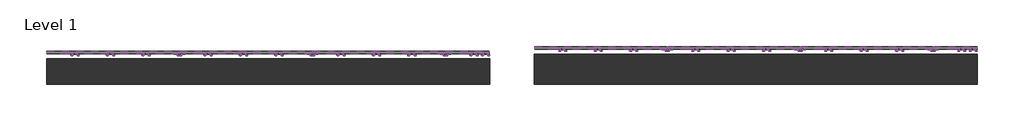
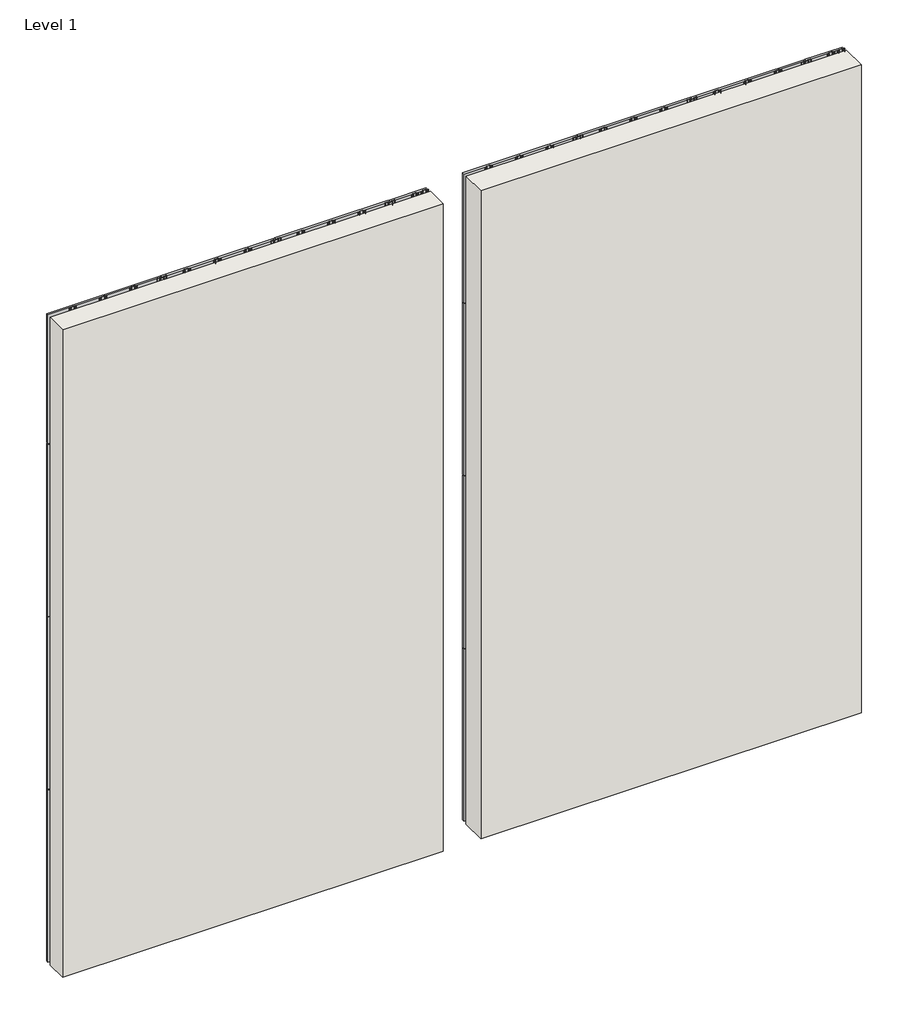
# One storey, incomplete: 32 plates, 24 members, 2 walls.
"""IFC4 building model written with IfcOpenShell, lengths in millimetres."""

from ifc_helpers import new_model, si_unit, origin, origin_with_axes, place, context, project, spatial, polyline, outline, extrude, transform, mapped, element, save
from components import rectangular_mullion_kws_revealrail_mullion_635518cf, rectangular_mullion_kws_revealrail_mullion_a2485246, plate_84a66804, plate_de720d52, plate_85d27ee4, plate_facd7c0a

model = new_model("IFC4")

# Units and contexts
model_context = context("Model", 3, world=origin())
ifc_project = project(units=[si_unit("LENGTHUNIT", "METRE", prefix="MILLI")], contexts=[model_context])

# Site, building, storey
site = spatial("IfcSite", under=ifc_project)
building = spatial("IfcBuilding", under=site)
storey = spatial("IfcBuildingStorey", under=building, Name="Level 1", Elevation=0.0)

# Members
placement = place(None, origin())
rectangular_mullion_kws_revealrail_mullion_shape = rectangular_mullion_kws_revealrail_mullion_635518cf(model_context)
element("IfcMember", 1, ObjectType="Rectangular Mullion : KWS_RevealRail_Mullion", at=placement, inside=storey, context=model_context, shape_type="MappedRepresentation", body=[
    mapped(rectangular_mullion_kws_revealrail_mullion_shape, transform((2855.9764743, 7373.7586092, 0.0), x_axis=(1.0, 0.0, 0.0), y_axis=(0.0, -1.0, 0.0), z_axis=(0.0, 0.0, -1.0))),
])
element("IfcMember", 2, ObjectType="Rectangular Mullion : KWS_RevealRail_Mullion", at=placement, inside=storey, context=model_context, shape_type="MappedRepresentation", body=[
    mapped(rectangular_mullion_kws_revealrail_mullion_shape, transform((4379.9764743, 7373.7586092, 0.0), x_axis=(1.0, 0.0, 0.0), y_axis=(0.0, -1.0, 0.0), z_axis=(0.0, 0.0, -1.0))),
])
element("IfcMember", 3, ObjectType="Rectangular Mullion : KWS_RevealRail_Mullion", at=placement, inside=storey, context=model_context, shape_type="MappedRepresentation", body=[
    mapped(rectangular_mullion_kws_revealrail_mullion_shape, transform((5903.9764743, 7373.7586092, 0.0), x_axis=(1.0, 0.0, 0.0), y_axis=(0.0, -1.0, 0.0), z_axis=(0.0, 0.0, -1.0))),
])
element("IfcMember", 4, ObjectType="Rectangular Mullion : KWS_RevealRail_Mullion", at=placement, inside=storey, context=model_context, shape_type="MappedRepresentation", body=[
    mapped(rectangular_mullion_kws_revealrail_mullion_shape, transform((8443.9764743, 7424.5586092, 0.0), x_axis=(1.0, 0.0, 0.0), y_axis=(0.0, -1.0, 0.0), z_axis=(0.0, 0.0, -1.0))),
])
element("IfcMember", 5, ObjectType="Rectangular Mullion : KWS_RevealRail_Mullion", at=placement, inside=storey, context=model_context, shape_type="MappedRepresentation", body=[
    mapped(rectangular_mullion_kws_revealrail_mullion_shape, transform((9967.9764743, 7424.5586092, 0.0), x_axis=(1.0, 0.0, 0.0), y_axis=(0.0, -1.0, 0.0), z_axis=(0.0, 0.0, -1.0))),
])
element("IfcMember", 6, ObjectType="Rectangular Mullion : KWS_RevealRail_Mullion", at=placement, inside=storey, context=model_context, shape_type="MappedRepresentation", body=[
    mapped(rectangular_mullion_kws_revealrail_mullion_shape, transform((11491.9764743, 7424.5586092, 0.0), x_axis=(1.0, 0.0, 0.0), y_axis=(0.0, -1.0, 0.0), z_axis=(0.0, 0.0, -1.0))),
])
element("IfcMember", 7, ObjectType="Rectangular Mullion : KWS_RevealRail_Mullion", at=placement, inside=storey, context=model_context, shape_type="MappedRepresentation", body=[
    mapped(rectangular_mullion_kws_revealrail_mullion_shape, transform((2855.9764743, 7373.7586092, 2438.4), x_axis=(1.0, 0.0, 0.0), y_axis=(0.0, -1.0, 0.0), z_axis=(0.0, 0.0, -1.0))),
])
element("IfcMember", 8, ObjectType="Rectangular Mullion : KWS_RevealRail_Mullion", at=placement, inside=storey, context=model_context, shape_type="MappedRepresentation", body=[
    mapped(rectangular_mullion_kws_revealrail_mullion_shape, transform((4379.9764743, 7373.7586092, 2438.4), x_axis=(1.0, 0.0, 0.0), y_axis=(0.0, -1.0, 0.0), z_axis=(0.0, 0.0, -1.0))),
])
element("IfcMember", 9, ObjectType="Rectangular Mullion : KWS_RevealRail_Mullion", at=placement, inside=storey, context=model_context, shape_type="MappedRepresentation", body=[
    mapped(rectangular_mullion_kws_revealrail_mullion_shape, transform((5903.9764743, 7373.7586092, 2438.4), x_axis=(1.0, 0.0, 0.0), y_axis=(0.0, -1.0, 0.0), z_axis=(0.0, 0.0, -1.0))),
])
element("IfcMember", 10, ObjectType="Rectangular Mullion : KWS_RevealRail_Mullion", at=placement, inside=storey, context=model_context, shape_type="MappedRepresentation", body=[
    mapped(rectangular_mullion_kws_revealrail_mullion_shape, transform((2855.9764743, 7373.7586092, 4876.8), x_axis=(1.0, 0.0, 0.0), y_axis=(0.0, -1.0, 0.0), z_axis=(0.0, 0.0, -1.0))),
])
element("IfcMember", 11, ObjectType="Rectangular Mullion : KWS_RevealRail_Mullion", at=placement, inside=storey, context=model_context, shape_type="MappedRepresentation", body=[
    mapped(rectangular_mullion_kws_revealrail_mullion_shape, transform((4379.9764743, 7373.7586092, 4876.8), x_axis=(1.0, 0.0, 0.0), y_axis=(0.0, -1.0, 0.0), z_axis=(0.0, 0.0, -1.0))),
])
element("IfcMember", 12, ObjectType="Rectangular Mullion : KWS_RevealRail_Mullion", at=placement, inside=storey, context=model_context, shape_type="MappedRepresentation", body=[
    mapped(rectangular_mullion_kws_revealrail_mullion_shape, transform((5903.9764743, 7373.7586092, 4876.8), x_axis=(1.0, 0.0, 0.0), y_axis=(0.0, -1.0, 0.0), z_axis=(0.0, 0.0, -1.0))),
])
element("IfcMember", 13, ObjectType="Rectangular Mullion : KWS_RevealRail_Mullion", at=placement, inside=storey, context=model_context, shape_type="MappedRepresentation", body=[
    mapped(rectangular_mullion_kws_revealrail_mullion_shape, transform((8443.9764743, 7424.5586092, 2438.4), x_axis=(1.0, 0.0, 0.0), y_axis=(0.0, -1.0, 0.0), z_axis=(0.0, 0.0, -1.0))),
])
element("IfcMember", 14, ObjectType="Rectangular Mullion : KWS_RevealRail_Mullion", at=placement, inside=storey, context=model_context, shape_type="MappedRepresentation", body=[
    mapped(rectangular_mullion_kws_revealrail_mullion_shape, transform((9967.9764743, 7424.5586092, 2438.4), x_axis=(1.0, 0.0, 0.0), y_axis=(0.0, -1.0, 0.0), z_axis=(0.0, 0.0, -1.0))),
])
element("IfcMember", 15, ObjectType="Rectangular Mullion : KWS_RevealRail_Mullion", at=placement, inside=storey, context=model_context, shape_type="MappedRepresentation", body=[
    mapped(rectangular_mullion_kws_revealrail_mullion_shape, transform((11491.9764743, 7424.5586092, 2438.4), x_axis=(1.0, 0.0, 0.0), y_axis=(0.0, -1.0, 0.0), z_axis=(0.0, 0.0, -1.0))),
])
element("IfcMember", 16, ObjectType="Rectangular Mullion : KWS_RevealRail_Mullion", at=placement, inside=storey, context=model_context, shape_type="MappedRepresentation", body=[
    mapped(rectangular_mullion_kws_revealrail_mullion_shape, transform((8443.9764743, 7424.5586092, 4876.8), x_axis=(1.0, 0.0, 0.0), y_axis=(0.0, -1.0, 0.0), z_axis=(0.0, 0.0, -1.0))),
])
element("IfcMember", 17, ObjectType="Rectangular Mullion : KWS_RevealRail_Mullion", at=placement, inside=storey, context=model_context, shape_type="MappedRepresentation", body=[
    mapped(rectangular_mullion_kws_revealrail_mullion_shape, transform((9967.9764743, 7424.5586092, 4876.8), x_axis=(1.0, 0.0, 0.0), y_axis=(0.0, -1.0, 0.0), z_axis=(0.0, 0.0, -1.0))),
])
element("IfcMember", 18, ObjectType="Rectangular Mullion : KWS_RevealRail_Mullion", at=placement, inside=storey, context=model_context, shape_type="MappedRepresentation", body=[
    mapped(rectangular_mullion_kws_revealrail_mullion_shape, transform((11491.9764743, 7424.5586092, 4876.8), x_axis=(1.0, 0.0, 0.0), y_axis=(0.0, -1.0, 0.0), z_axis=(0.0, 0.0, -1.0))),
])
rectangular_mullion_kws_revealrail_mullion_2_shape = rectangular_mullion_kws_revealrail_mullion_a2485246(model_context)
element("IfcMember", 19, ObjectType="Rectangular Mullion : KWS_RevealRail_Mullion", at=placement, inside=storey, context=model_context, shape_type="MappedRepresentation", body=[
    mapped(rectangular_mullion_kws_revealrail_mullion_2_shape, transform((2855.9764743, 7373.7586092, 7315.2), x_axis=(1.0, 0.0, 0.0), y_axis=(0.0, -1.0, 0.0), z_axis=(0.0, 0.0, -1.0))),
])
element("IfcMember", 20, ObjectType="Rectangular Mullion : KWS_RevealRail_Mullion", at=placement, inside=storey, context=model_context, shape_type="MappedRepresentation", body=[
    mapped(rectangular_mullion_kws_revealrail_mullion_2_shape, transform((4379.9764743, 7373.7586092, 7315.2), x_axis=(1.0, 0.0, 0.0), y_axis=(0.0, -1.0, 0.0), z_axis=(0.0, 0.0, -1.0))),
])
element("IfcMember", 21, ObjectType="Rectangular Mullion : KWS_RevealRail_Mullion", at=placement, inside=storey, context=model_context, shape_type="MappedRepresentation", body=[
    mapped(rectangular_mullion_kws_revealrail_mullion_2_shape, transform((5903.9764743, 7373.7586092, 7315.2), x_axis=(1.0, 0.0, 0.0), y_axis=(0.0, -1.0, 0.0), z_axis=(0.0, 0.0, -1.0))),
])
element("IfcMember", 22, ObjectType="Rectangular Mullion : KWS_RevealRail_Mullion", at=placement, inside=storey, context=model_context, shape_type="MappedRepresentation", body=[
    mapped(rectangular_mullion_kws_revealrail_mullion_2_shape, transform((8443.9764743, 7424.5586092, 7315.2), x_axis=(1.0, 0.0, 0.0), y_axis=(0.0, -1.0, 0.0), z_axis=(0.0, 0.0, -1.0))),
])
element("IfcMember", 23, ObjectType="Rectangular Mullion : KWS_RevealRail_Mullion", at=placement, inside=storey, context=model_context, shape_type="MappedRepresentation", body=[
    mapped(rectangular_mullion_kws_revealrail_mullion_2_shape, transform((9967.9764743, 7424.5586092, 7315.2), x_axis=(1.0, 0.0, 0.0), y_axis=(0.0, -1.0, 0.0), z_axis=(0.0, 0.0, -1.0))),
])
element("IfcMember", 24, ObjectType="Rectangular Mullion : KWS_RevealRail_Mullion", at=placement, inside=storey, context=model_context, shape_type="MappedRepresentation", body=[
    mapped(rectangular_mullion_kws_revealrail_mullion_2_shape, transform((11491.9764743, 7424.5586092, 7315.2), x_axis=(1.0, 0.0, 0.0), y_axis=(0.0, -1.0, 0.0), z_axis=(0.0, 0.0, -1.0))),
])

# Plates
plate_shape = plate_84a66804(model_context)
element("IfcPlate", 25, ObjectType="KWS_Generic-Panel_w_PanelRail-V : 2\" x 3/4\"", at=placement, inside=storey, context=model_context, shape_type="MappedRepresentation", body=[
    mapped(plate_shape, transform((2093.9764741, 7373.7586092, 0.0), x_axis=(1.0, 0.0, 0.0), y_axis=(0.0, 1.0, 0.0), z_axis=(0.0, 0.0, 1.0))),
])
element("IfcPlate", 26, ObjectType="KWS_Generic-Panel_w_PanelRail-V : 2\" x 3/4\"", at=placement, inside=storey, context=model_context, shape_type="MappedRepresentation", body=[
    mapped(plate_shape, transform((3617.9764743, 7373.7586092, 0.0), x_axis=(1.0, 0.0, 0.0), y_axis=(0.0, 1.0, 0.0), z_axis=(0.0, 0.0, 1.0))),
])
element("IfcPlate", 27, ObjectType="KWS_Generic-Panel_w_PanelRail-V : 2\" x 3/4\"", at=placement, inside=storey, context=model_context, shape_type="MappedRepresentation", body=[
    mapped(plate_shape, transform((5141.9764743, 7373.7586092, 0.0), x_axis=(1.0, 0.0, 0.0), y_axis=(0.0, 1.0, 0.0), z_axis=(0.0, 0.0, 1.0))),
])
element("IfcPlate", 28, ObjectType="KWS_Generic-Panel_w_PanelRail-V : 2\" x 3/4\"", at=placement, inside=storey, context=model_context, shape_type="MappedRepresentation", body=[
    mapped(plate_shape, transform((2093.9764741, 7373.7586092, 2438.4), x_axis=(1.0, 0.0, 0.0), y_axis=(0.0, 1.0, 0.0), z_axis=(0.0, 0.0, 1.0))),
])
element("IfcPlate", 29, ObjectType="KWS_Generic-Panel_w_PanelRail-V : 2\" x 3/4\"", at=placement, inside=storey, context=model_context, shape_type="MappedRepresentation", body=[
    mapped(plate_shape, transform((3617.9764743, 7373.7586092, 2438.4), x_axis=(1.0, 0.0, 0.0), y_axis=(0.0, 1.0, 0.0), z_axis=(0.0, 0.0, 1.0))),
])
element("IfcPlate", 30, ObjectType="KWS_Generic-Panel_w_PanelRail-V : 2\" x 3/4\"", at=placement, inside=storey, context=model_context, shape_type="MappedRepresentation", body=[
    mapped(plate_shape, transform((5141.9764743, 7373.7586092, 2438.4), x_axis=(1.0, 0.0, 0.0), y_axis=(0.0, 1.0, 0.0), z_axis=(0.0, 0.0, 1.0))),
])
element("IfcPlate", 31, ObjectType="KWS_Generic-Panel_w_PanelRail-V : 2\" x 3/4\"", at=placement, inside=storey, context=model_context, shape_type="MappedRepresentation", body=[
    mapped(plate_shape, transform((2093.9764741, 7373.7586092, 4876.8), x_axis=(1.0, 0.0, 0.0), y_axis=(0.0, 1.0, 0.0), z_axis=(0.0, 0.0, 1.0))),
])
element("IfcPlate", 32, ObjectType="KWS_Generic-Panel_w_PanelRail-V : 2\" x 3/4\"", at=placement, inside=storey, context=model_context, shape_type="MappedRepresentation", body=[
    mapped(plate_shape, transform((3617.9764743, 7373.7586092, 4876.8), x_axis=(1.0, 0.0, 0.0), y_axis=(0.0, 1.0, 0.0), z_axis=(0.0, 0.0, 1.0))),
])
element("IfcPlate", 33, ObjectType="KWS_Generic-Panel_w_PanelRail-V : 2\" x 3/4\"", at=placement, inside=storey, context=model_context, shape_type="MappedRepresentation", body=[
    mapped(plate_shape, transform((5141.9764743, 7373.7586092, 4876.8), x_axis=(1.0, 0.0, 0.0), y_axis=(0.0, 1.0, 0.0), z_axis=(0.0, 0.0, 1.0))),
])
element("IfcPlate", 34, ObjectType="KWS_Generic-Panel_w_PanelRail-V : 2\" x 3/4\"", at=placement, inside=storey, context=model_context, shape_type="MappedRepresentation", body=[
    mapped(plate_shape, transform((7681.9764741, 7424.5586092, 0.0), x_axis=(1.0, 0.0, 0.0), y_axis=(0.0, 1.0, 0.0), z_axis=(0.0, 0.0, 1.0))),
])
element("IfcPlate", 35, ObjectType="KWS_Generic-Panel_w_PanelRail-V : 2\" x 3/4\"", at=placement, inside=storey, context=model_context, shape_type="MappedRepresentation", body=[
    mapped(plate_shape, transform((9205.9764743, 7424.5586092, 0.0), x_axis=(1.0, 0.0, 0.0), y_axis=(0.0, 1.0, 0.0), z_axis=(0.0, 0.0, 1.0))),
])
element("IfcPlate", 36, ObjectType="KWS_Generic-Panel_w_PanelRail-V : 2\" x 3/4\"", at=placement, inside=storey, context=model_context, shape_type="MappedRepresentation", body=[
    mapped(plate_shape, transform((10729.9764743, 7424.5586092, 0.0), x_axis=(1.0, 0.0, 0.0), y_axis=(0.0, 1.0, 0.0), z_axis=(0.0, 0.0, 1.0))),
])
element("IfcPlate", 37, ObjectType="KWS_Generic-Panel_w_PanelRail-V : 2\" x 3/4\"", at=placement, inside=storey, context=model_context, shape_type="MappedRepresentation", body=[
    mapped(plate_shape, transform((7681.9764741, 7424.5586092, 2438.4), x_axis=(1.0, 0.0, 0.0), y_axis=(0.0, 1.0, 0.0), z_axis=(0.0, 0.0, 1.0))),
])
element("IfcPlate", 38, ObjectType="KWS_Generic-Panel_w_PanelRail-V : 2\" x 3/4\"", at=placement, inside=storey, context=model_context, shape_type="MappedRepresentation", body=[
    mapped(plate_shape, transform((9205.9764743, 7424.5586092, 2438.4), x_axis=(1.0, 0.0, 0.0), y_axis=(0.0, 1.0, 0.0), z_axis=(0.0, 0.0, 1.0))),
])
element("IfcPlate", 39, ObjectType="KWS_Generic-Panel_w_PanelRail-V : 2\" x 3/4\"", at=placement, inside=storey, context=model_context, shape_type="MappedRepresentation", body=[
    mapped(plate_shape, transform((10729.9764743, 7424.5586092, 2438.4), x_axis=(1.0, 0.0, 0.0), y_axis=(0.0, 1.0, 0.0), z_axis=(0.0, 0.0, 1.0))),
])
element("IfcPlate", 40, ObjectType="KWS_Generic-Panel_w_PanelRail-V : 2\" x 3/4\"", at=placement, inside=storey, context=model_context, shape_type="MappedRepresentation", body=[
    mapped(plate_shape, transform((7681.9764741, 7424.5586092, 4876.8), x_axis=(1.0, 0.0, 0.0), y_axis=(0.0, 1.0, 0.0), z_axis=(0.0, 0.0, 1.0))),
])
element("IfcPlate", 41, ObjectType="KWS_Generic-Panel_w_PanelRail-V : 2\" x 3/4\"", at=placement, inside=storey, context=model_context, shape_type="MappedRepresentation", body=[
    mapped(plate_shape, transform((9205.9764743, 7424.5586092, 4876.8), x_axis=(1.0, 0.0, 0.0), y_axis=(0.0, 1.0, 0.0), z_axis=(0.0, 0.0, 1.0))),
])
element("IfcPlate", 42, ObjectType="KWS_Generic-Panel_w_PanelRail-V : 2\" x 3/4\"", at=placement, inside=storey, context=model_context, shape_type="MappedRepresentation", body=[
    mapped(plate_shape, transform((10729.9764743, 7424.5586092, 4876.8), x_axis=(1.0, 0.0, 0.0), y_axis=(0.0, 1.0, 0.0), z_axis=(0.0, 0.0, 1.0))),
])
plate_2_shape = plate_de720d52(model_context)
element("IfcPlate", 43, ObjectType="KWS_Generic-Panel_w_PanelRail-V : 2\" x 3/4\"", at=placement, inside=storey, context=model_context, shape_type="MappedRepresentation", body=[
    mapped(plate_2_shape, transform((6157.9764741, 7373.7586092, 0.0), x_axis=(1.0, 0.0, 0.0), y_axis=(0.0, 1.0, 0.0), z_axis=(0.0, 0.0, 1.0))),
])
element("IfcPlate", 44, ObjectType="KWS_Generic-Panel_w_PanelRail-V : 2\" x 3/4\"", at=placement, inside=storey, context=model_context, shape_type="MappedRepresentation", body=[
    mapped(plate_2_shape, transform((6157.9764741, 7373.7586092, 2438.4), x_axis=(1.0, 0.0, 0.0), y_axis=(0.0, 1.0, 0.0), z_axis=(0.0, 0.0, 1.0))),
])
element("IfcPlate", 45, ObjectType="KWS_Generic-Panel_w_PanelRail-V : 2\" x 3/4\"", at=placement, inside=storey, context=model_context, shape_type="MappedRepresentation", body=[
    mapped(plate_2_shape, transform((6157.9764741, 7373.7586092, 4876.8), x_axis=(1.0, 0.0, 0.0), y_axis=(0.0, 1.0, 0.0), z_axis=(0.0, 0.0, 1.0))),
])
element("IfcPlate", 46, ObjectType="KWS_Generic-Panel_w_PanelRail-V : 2\" x 3/4\"", at=placement, inside=storey, context=model_context, shape_type="MappedRepresentation", body=[
    mapped(plate_2_shape, transform((11745.9764741, 7424.5586092, 0.0), x_axis=(1.0, 0.0, 0.0), y_axis=(0.0, 1.0, 0.0), z_axis=(0.0, 0.0, 1.0))),
])
element("IfcPlate", 47, ObjectType="KWS_Generic-Panel_w_PanelRail-V : 2\" x 3/4\"", at=placement, inside=storey, context=model_context, shape_type="MappedRepresentation", body=[
    mapped(plate_2_shape, transform((11745.9764741, 7424.5586092, 2438.4), x_axis=(1.0, 0.0, 0.0), y_axis=(0.0, 1.0, 0.0), z_axis=(0.0, 0.0, 1.0))),
])
element("IfcPlate", 48, ObjectType="KWS_Generic-Panel_w_PanelRail-V : 2\" x 3/4\"", at=placement, inside=storey, context=model_context, shape_type="MappedRepresentation", body=[
    mapped(plate_2_shape, transform((11745.9764741, 7424.5586092, 4876.8), x_axis=(1.0, 0.0, 0.0), y_axis=(0.0, 1.0, 0.0), z_axis=(0.0, 0.0, 1.0))),
])
plate_3_shape = plate_85d27ee4(model_context)
element("IfcPlate", 49, ObjectType="KWS_Generic-Panel_w_PanelRail-V : 2\" x 3/4\"", at=placement, inside=storey, context=model_context, shape_type="MappedRepresentation", body=[
    mapped(plate_3_shape, transform((2093.9764741, 7373.7586092, 7315.2), x_axis=(1.0, 0.0, 0.0), y_axis=(0.0, 1.0, 0.0), z_axis=(0.0, 0.0, 1.0))),
])
element("IfcPlate", 50, ObjectType="KWS_Generic-Panel_w_PanelRail-V : 2\" x 3/4\"", at=placement, inside=storey, context=model_context, shape_type="MappedRepresentation", body=[
    mapped(plate_3_shape, transform((3617.9764743, 7373.7586092, 7315.2), x_axis=(1.0, 0.0, 0.0), y_axis=(0.0, 1.0, 0.0), z_axis=(0.0, 0.0, 1.0))),
])
element("IfcPlate", 51, ObjectType="KWS_Generic-Panel_w_PanelRail-V : 2\" x 3/4\"", at=placement, inside=storey, context=model_context, shape_type="MappedRepresentation", body=[
    mapped(plate_3_shape, transform((5141.9764743, 7373.7586092, 7315.2), x_axis=(1.0, 0.0, 0.0), y_axis=(0.0, 1.0, 0.0), z_axis=(0.0, 0.0, 1.0))),
])
element("IfcPlate", 52, ObjectType="KWS_Generic-Panel_w_PanelRail-V : 2\" x 3/4\"", at=placement, inside=storey, context=model_context, shape_type="MappedRepresentation", body=[
    mapped(plate_3_shape, transform((7681.9764741, 7424.5586092, 7315.2), x_axis=(1.0, 0.0, 0.0), y_axis=(0.0, 1.0, 0.0), z_axis=(0.0, 0.0, 1.0))),
])
element("IfcPlate", 53, ObjectType="KWS_Generic-Panel_w_PanelRail-V : 2\" x 3/4\"", at=placement, inside=storey, context=model_context, shape_type="MappedRepresentation", body=[
    mapped(plate_3_shape, transform((9205.9764743, 7424.5586092, 7315.2), x_axis=(1.0, 0.0, 0.0), y_axis=(0.0, 1.0, 0.0), z_axis=(0.0, 0.0, 1.0))),
])
element("IfcPlate", 54, ObjectType="KWS_Generic-Panel_w_PanelRail-V : 2\" x 3/4\"", at=placement, inside=storey, context=model_context, shape_type="MappedRepresentation", body=[
    mapped(plate_3_shape, transform((10729.9764743, 7424.5586092, 7315.2), x_axis=(1.0, 0.0, 0.0), y_axis=(0.0, 1.0, 0.0), z_axis=(0.0, 0.0, 1.0))),
])
plate_4_shape = plate_facd7c0a(model_context)
element("IfcPlate", 55, ObjectType="KWS_Generic-Panel_w_PanelRail-V : 2\" x 3/4\"", at=placement, inside=storey, context=model_context, shape_type="MappedRepresentation", body=[
    mapped(plate_4_shape, transform((6157.9764741, 7373.7586092, 7315.2), x_axis=(1.0, 0.0, 0.0), y_axis=(0.0, 1.0, 0.0), z_axis=(0.0, 0.0, 1.0))),
])
element("IfcPlate", 56, ObjectType="KWS_Generic-Panel_w_PanelRail-V : 2\" x 3/4\"", at=placement, inside=storey, context=model_context, shape_type="MappedRepresentation", body=[
    mapped(plate_4_shape, transform((11745.9764741, 7424.5586092, 7315.2), x_axis=(1.0, 0.0, 0.0), y_axis=(0.0, 1.0, 0.0), z_axis=(0.0, 0.0, 1.0))),
])

# Walls
element("IfcWall", 57, ObjectType="Exterior - Backup Wall System - Concrete Block", at=placement, inside=storey, context=model_context, shape_type="SweptSolid", body=[
    extrude(outline(polyline([(6411.976474, 7046.7336092), (1331.976474, 7046.7336092), (1331.976474, 7335.6586092), (6411.976474, 7335.6586092), (6411.976474, 7046.7336092)])), origin_with_axes(), (0.0, 0.0, 1.0), 9144.0),
])
element("IfcWall", 58, ObjectType="Exterior - Backup Wall System - Concrete Block 2", at=placement, inside=storey, context=model_context, shape_type="SweptSolid", body=[
    extrude(outline(polyline([(11999.976474, 7046.7336092), (6919.976474, 7046.7336092), (6919.976474, 7386.4586092), (11999.976474, 7386.4586092), (11999.976474, 7046.7336092)])), origin_with_axes(), (0.0, 0.0, 1.0), 9144.0),
])

save(model, "model.ifc")
